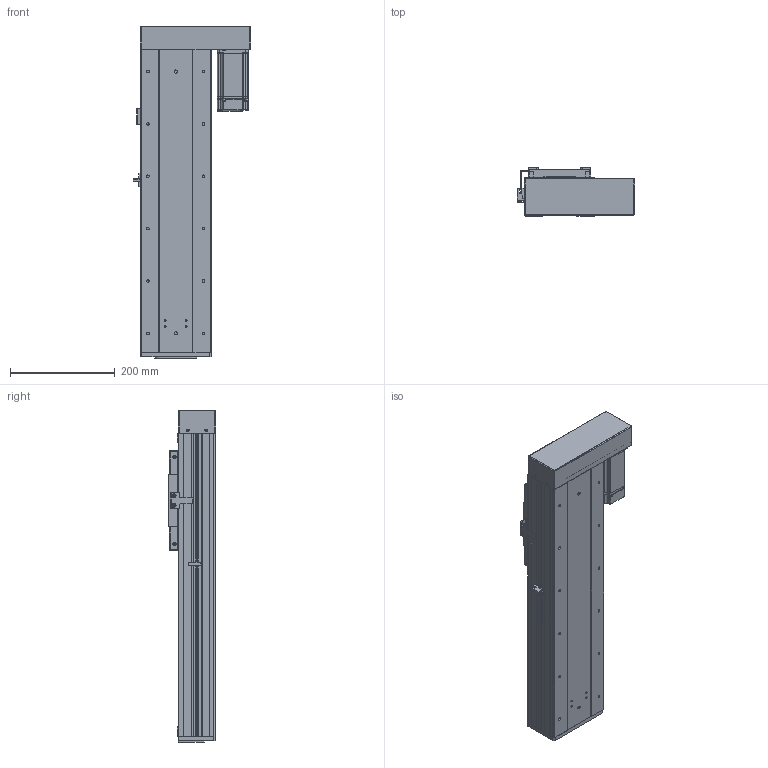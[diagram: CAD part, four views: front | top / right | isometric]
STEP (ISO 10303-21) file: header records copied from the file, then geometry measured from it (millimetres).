
FILE_DESCRIPTION (( 'STEP AP203' ), '1' );
FILE_NAME ('RY140F-L2020-300-RK.SLDASM_300.step', '2021-03-02T08:49:50', ( '盈信电脑' ), ( '东莞市道滘镇水果街19号' ), 'SwSTEP 2.0', 'SolidWorks 2012', '' );
FILE_SCHEMA (( 'CONFIG_CONTROL_DESIGN' ));
Products named in the file (19): RY140F-酘衵殏萇儂欶(400W); RY140F-672覜茼んえ; RY140F-詩湍揤え; 覜茼ん672; 侐源滅袉蝶; RY100F-詩湍揤踡謫; RY140F-后盖板(铝件）; RY140F-直连型材铝滑块(16丝杆); RY140F-詩湍幗謫粣; RY140F-滅鳥奻裔; RY140F-300-RK蛌殏詩湍; RY140F-直连型材铝滑块连接座; RY140F-300-RK倰第奻裔啣; RY140F-300-RK倰第菁釱; 侂狟400W侜督萇儂; 15; RY140F-左右折电机安装板(400W M5); RY140F-转折折电机座（7001）; RY140F-L2020-300-RK.SLDASM_300
Assembly tree (23 placements, depth 3):
  RY140F-L2020-300-RK.SLDASM_300
    RY140F-300-RK倰第菁釱
    RY140F-300-RK倰第奻裔啣  x2
    RY140F-300-RK蛌殏詩湍
    RY140F-直连型材铝滑块连接座
    RY140F-滅鳥奻裔
    RY140F-詩湍幗謫粣
    RY100F-詩湍揤踡謫
    RY140F-直连型材铝滑块(16丝杆)
    RY140F-后盖板(铝件）
    侂狟400W侜督萇儂
      15
    覜茼ん672
    RY140F-672覜茼んえ
    RY140F-詩湍揤え  x2
    侐源滅袉蝶  x4
    RY140F-转折折电机座（7001）
    RY140F-左右折电机安装板(400W M5)
    RY140F-酘衵殏萇儂欶(400W)
Bounding box: 224.7 x 91 x 634 mm (x, y, z)
Volume: 2910907.4 mm3; surface area: 1027113 mm2
Topology: 22 solids, 22 shells, 1981 faces, 5409 edges, 3444 vertices
Faces by surface type: cylinder 956, plane 789, cone 206, bspline 26, torus 4
Entity records: 62699 total; most frequent: CARTESIAN_POINT 13333, DIRECTION 9998, ORIENTED_EDGE 9746, EDGE_CURVE 4873, AXIS2_PLACEMENT_3D 3573, VERTEX_POINT 3184, VECTOR 2852, LINE 2852
